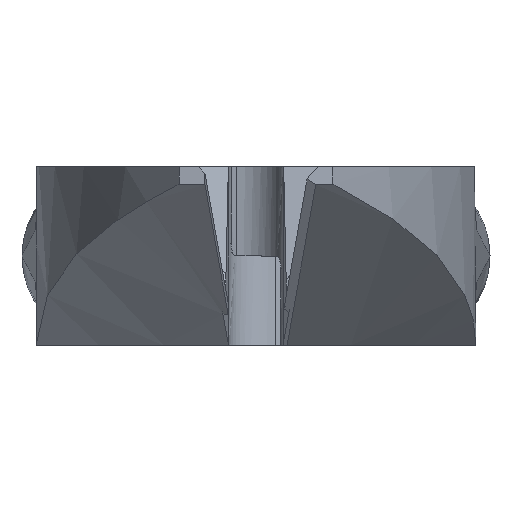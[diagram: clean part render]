
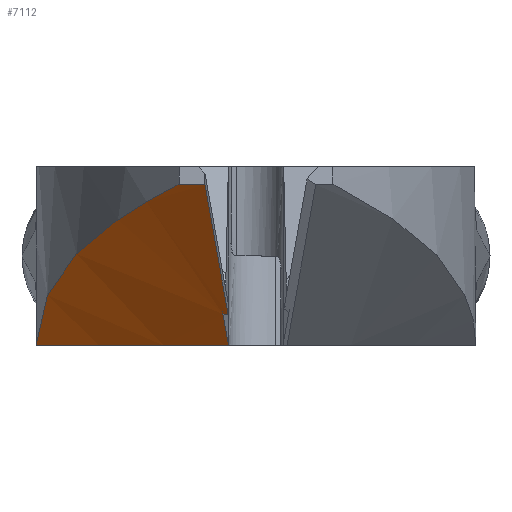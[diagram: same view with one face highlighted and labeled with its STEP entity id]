
A CAD part, left-side view. The second image highlights one B-rep face of the part: STEP entity #7112.
In plain terms, the highlighted cylindrical face has radius 45 mm (diameter 90 mm), a partial arc.
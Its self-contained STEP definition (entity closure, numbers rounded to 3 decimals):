
#10 = EDGE_LOOP ( 'NONE', ( #1153, #4349, #6399, #1921, #6424, #6910 ) ) ;
#324 = EDGE_CURVE ( 'NONE', #5644, #5758, #2060, .T. ) ;
#443 = CARTESIAN_POINT ( 'NONE',  ( -17.566, 5.512, 3.668 ) ) ;
#459 = CARTESIAN_POINT ( 'NONE',  ( -13.124, 0., 1.224 ) ) ;
#463 = CARTESIAN_POINT ( 'NONE',  ( -8.844, 7.905, 0. ) ) ;
#601 =( BOUNDED_CURVE ( )  B_SPLINE_CURVE ( 3, ( #7059, #3209, #6512, #459 ),
 .UNSPECIFIED., .F., .F. ) 
 B_SPLINE_CURVE_WITH_KNOTS ( ( 4, 4 ),
 ( 3.137, 3.142 ),
 .UNSPECIFIED. ) 
 CURVE ( )  GEOMETRIC_REPRESENTATION_ITEM ( )  RATIONAL_B_SPLINE_CURVE ( ( 1., 1., 1., 1. ) ) 
 REPRESENTATION_ITEM ( '' )  );
#661 = VECTOR ( 'NONE', #2794, 1000. ) ;
#663 = AXIS2_PLACEMENT_3D ( 'NONE', #3339, #2775, #1689 ) ;
#872 = B_SPLINE_CURVE_WITH_KNOTS ( 'NONE', 3,
 ( #1899, #1357, #2457, #6323 ),
 .UNSPECIFIED., .F., .F.,
 ( 4, 4 ),
 ( 0., 1. ),
 .UNSPECIFIED. ) ;
#921 = B_SPLINE_CURVE_WITH_KNOTS ( 'NONE', 3,
 ( #2072, #2633, #3192, #7042, #3742, #443, #4305, #1003, #4850, #1548, #5419, #2099 ),
 .UNSPECIFIED., .F., .F.,
 ( 4, 2, 2, 2, 2, 4 ),
 ( 0., 0.005, 0.009, 0.011, 0.014, 0.018 ),
 .UNSPECIFIED. ) ;
#1003 = CARTESIAN_POINT ( 'NONE',  ( -19.454, 4.496, 4.422 ) ) ;
#1153 = ORIENTED_EDGE ( 'NONE', *, *, #1929, .F. ) ;
#1299 = CYLINDRICAL_SURFACE ( 'NONE', #663, 45. ) ;
#1357 = CARTESIAN_POINT ( 'NONE',  ( -16.75, 0., 2.914 ) ) ;
#1548 = CARTESIAN_POINT ( 'NONE',  ( -21.836, 2.926, 5.383 ) ) ;
#1689 = DIRECTION ( 'NONE',  ( 0.423, 0., 0.906 ) ) ;
#1713 = CARTESIAN_POINT ( 'NONE',  ( -24., 0.679, 6.299 ) ) ;
#1899 = CARTESIAN_POINT ( 'NONE',  ( -13.124, 0., 1.224 ) ) ;
#1921 = ORIENTED_EDGE ( 'NONE', *, *, #2605, .T. ) ;
#1929 = EDGE_CURVE ( 'NONE', #5758, #3681, #921, .T. ) ;
#2009 = CARTESIAN_POINT ( 'NONE',  ( -13.124, 0.2, 1.224 ) ) ;
#2060 =( BOUNDED_CURVE ( )  B_SPLINE_CURVE ( 3, ( #6677, #5318, #2315, #3381 ),
 .UNSPECIFIED., .F., .F. ) 
 B_SPLINE_CURVE_WITH_KNOTS ( ( 4, 4 ),
 ( 0.004, 0.177 ),
 .UNSPECIFIED. ) 
 CURVE ( )  GEOMETRIC_REPRESENTATION_ITEM ( )  RATIONAL_B_SPLINE_CURVE ( ( 1., 0.998, 0.998, 1. ) ) 
 REPRESENTATION_ITEM ( '' )  );
#2072 = CARTESIAN_POINT ( 'NONE',  ( -8.844, 7.905, 0. ) ) ;
#2099 = CARTESIAN_POINT ( 'NONE',  ( -24., 1.018, 6.308 ) ) ;
#2163 = EDGE_CURVE ( 'NONE', #3733, #3681, #4227, .T. ) ;
#2291 = LINE ( 'NONE', #6629, #661 ) ;
#2315 = CARTESIAN_POINT ( 'NONE',  ( -9.919, 5.36, 0. ) ) ;
#2457 = CARTESIAN_POINT ( 'NONE',  ( -20.375, 0., 4.605 ) ) ;
#2605 = EDGE_CURVE ( 'NONE', #6520, #4596, #601, .T. ) ;
#2633 = CARTESIAN_POINT ( 'NONE',  ( -10.229, 7.784, 0.622 ) ) ;
#2775 = DIRECTION ( 'NONE',  ( -0.906, 0., 0.423 ) ) ;
#2794 = DIRECTION ( 'NONE',  ( -0.906, 0., 0.423 ) ) ;
#2806 = CARTESIAN_POINT ( 'NONE',  ( -24., 0.339, 6.295 ) ) ;
#3192 = CARTESIAN_POINT ( 'NONE',  ( -11.595, 7.549, 1.213 ) ) ;
#3209 = CARTESIAN_POINT ( 'NONE',  ( -13.124, 0.133, 1.224 ) ) ;
#3339 = CARTESIAN_POINT ( 'NONE',  ( 9.967, 0., 40.108 ) ) ;
#3381 = CARTESIAN_POINT ( 'NONE',  ( -8.844, 7.905, 0. ) ) ;
#3477 = CARTESIAN_POINT ( 'NONE',  ( -24., 0., 6.295 ) ) ;
#3527 = EDGE_CURVE ( 'NONE', #5644, #6520, #2291, .T. ) ;
#3681 = VERTEX_POINT ( 'NONE', #4077 ) ;
#3733 = VERTEX_POINT ( 'NONE', #3477 ) ;
#3742 = CARTESIAN_POINT ( 'NONE',  ( -15.615, 6.389, 2.884 ) ) ;
#4077 = CARTESIAN_POINT ( 'NONE',  ( -24., 1.018, 6.308 ) ) ;
#4227 = B_SPLINE_CURVE_WITH_KNOTS ( 'NONE', 3,
 ( #4475, #2806, #1713, #5588 ),
 .UNSPECIFIED., .F., .F.,
 ( 4, 4 ),
 ( 0., 1. ),
 .UNSPECIFIED. ) ;
#4305 = CARTESIAN_POINT ( 'NONE',  ( -18.207, 5.19, 3.924 ) ) ;
#4349 = ORIENTED_EDGE ( 'NONE', *, *, #324, .F. ) ;
#4475 = CARTESIAN_POINT ( 'NONE',  ( -24., 0., 6.295 ) ) ;
#4596 = VERTEX_POINT ( 'NONE', #6440 ) ;
#4850 = CARTESIAN_POINT ( 'NONE',  ( -20.061, 4.123, 4.665 ) ) ;
#5318 = CARTESIAN_POINT ( 'NONE',  ( -10.472, 2.785, 0. ) ) ;
#5419 = CARTESIAN_POINT ( 'NONE',  ( -22.954, 2.024, 5.845 ) ) ;
#5420 = CARTESIAN_POINT ( 'NONE',  ( -10.499, 0.2, 0. ) ) ;
#5588 = CARTESIAN_POINT ( 'NONE',  ( -24., 1.018, 6.308 ) ) ;
#5644 = VERTEX_POINT ( 'NONE', #5420 ) ;
#5758 = VERTEX_POINT ( 'NONE', #463 ) ;
#5887 = FACE_OUTER_BOUND ( 'NONE', #10, .T. ) ;
#6160 = EDGE_CURVE ( 'NONE', #4596, #3733, #872, .T. ) ;
#6323 = CARTESIAN_POINT ( 'NONE',  ( -24., 0., 6.295 ) ) ;
#6399 = ORIENTED_EDGE ( 'NONE', *, *, #3527, .T. ) ;
#6424 = ORIENTED_EDGE ( 'NONE', *, *, #6160, .T. ) ;
#6440 = CARTESIAN_POINT ( 'NONE',  ( -13.124, 0., 1.224 ) ) ;
#6512 = CARTESIAN_POINT ( 'NONE',  ( -13.124, 0.066, 1.224 ) ) ;
#6520 = VERTEX_POINT ( 'NONE', #2009 ) ;
#6629 = CARTESIAN_POINT ( 'NONE',  ( -16.572, 0.2, 2.832 ) ) ;
#6677 = CARTESIAN_POINT ( 'NONE',  ( -10.499, 0.2, 0. ) ) ;
#6910 = ORIENTED_EDGE ( 'NONE', *, *, #2163, .T. ) ;
#7042 = CARTESIAN_POINT ( 'NONE',  ( -14.288, 6.852, 2.344 ) ) ;
#7059 = CARTESIAN_POINT ( 'NONE',  ( -13.124, 0.2, 1.224 ) ) ;
#7112 = ADVANCED_FACE ( 'NONE', ( #5887 ), #1299, .T. ) ;
